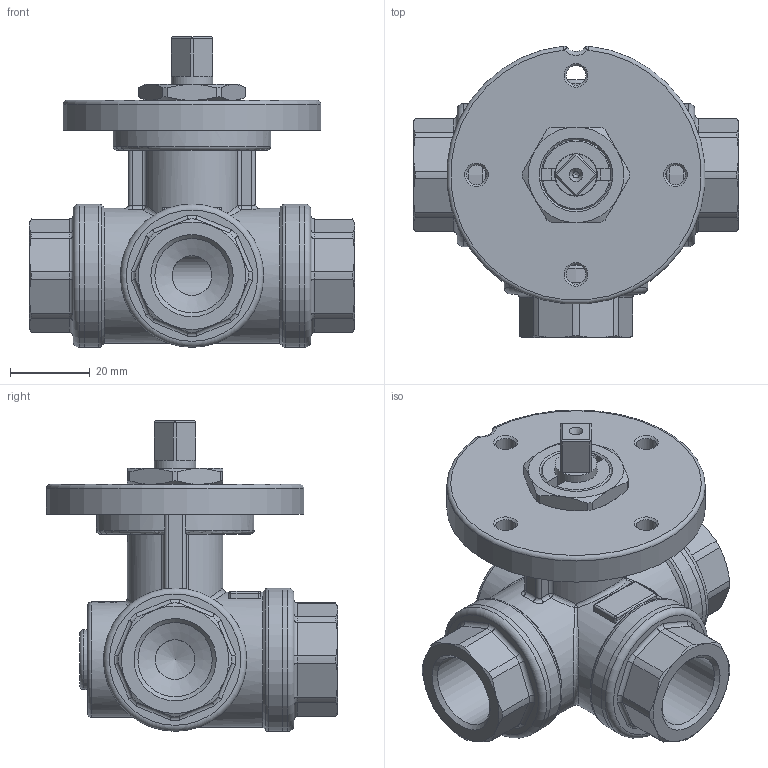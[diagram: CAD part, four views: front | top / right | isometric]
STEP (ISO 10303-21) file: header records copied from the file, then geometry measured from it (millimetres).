
FILE_DESCRIPTION((''),'2;1');
FILE_NAME('C:\Documents and Settings\ut4\Desktop\TICOM 16-07-2012\Art.92 PM SM 012.stp','2012-07-16T14:19:29',('ut4'),(''),'Autodesk Inventor 2013','Autodesk Inventor 2013','');
FILE_SCHEMA(('AUTOMOTIVE_DESIGN { 1 0 10303 214 1 1 1 1 }'));
Length unit declared in the file: millimetre
Products named in the file (13): Art.92 PM SM 012; Corpo 3vie mot. 012; Manic. 3vie 012; Boccola antigrip. perno mot. Ø15; Dado blocca piastra SM2; O-ring 15.08 x 2; Sede 3vie 012 mot; Sfera 3vie for. L 012; Dischetto portamotore SM Ø19 lav; Perno mot. 15 q8; O-ring 11.11 x 1; Ghiera ferma asta mot. 20-19; Anello antigrip. perno mot. Ø15
Assembly tree (21 placements, depth 2):
  Art.92 PM SM 012
    Corpo 3vie mot. 012
    Manic. 3vie 012  x3
    Boccola antigrip. perno mot. Ø15
    Dado blocca piastra SM2
    O-ring 15.08 x 2  x4
    Sede 3vie 012 mot  x4
    Sfera 3vie for. L 012
    Dischetto portamotore SM Ø19 lav
    Perno mot. 15 q8
    O-ring 11.11 x 1  x2
    Ghiera ferma asta mot. 20-19
    Anello antigrip. perno mot. Ø15
Bounding box: 81.7 x 73.2 x 78.05 mm (x, y, z)
Volume: 106128.2 mm3; surface area: 62404.1 mm2
Topology: 21 solids, 21 shells, 586 faces, 1346 edges, 791 vertices
Faces by surface type: cylinder 216, plane 159, cone 89, torus 78, sphere 31, bspline 13
Full cylindrical faces by diameter (mm): 1.6 x1, 4.917 x4, 10 x7, 10.5 x2, 10.7 x1, 11 x2, 12 x1, 12.1 x2, 12.4 x2, 12.5 x2, 14.5 x4, 14.9 x3, 15 x4, 17.5 x1, 18 x1, 18.5 x1, 18.65 x3, 19 x2, 20 x1, 20.9 x7, 21.5 x1, 24.5 x3, 26 x2, 28.5 x3, 29 x1, 30 x3, 30.5 x3, 34 x2, 36 x6
Entity records: 13673 total; most frequent: CARTESIAN_POINT 3388, DIRECTION 2188, ORIENTED_EDGE 1800, AXIS2_PLACEMENT_3D 956, EDGE_CURVE 900, VERTEX_POINT 589, EDGE_LOOP 589, CIRCLE 474
